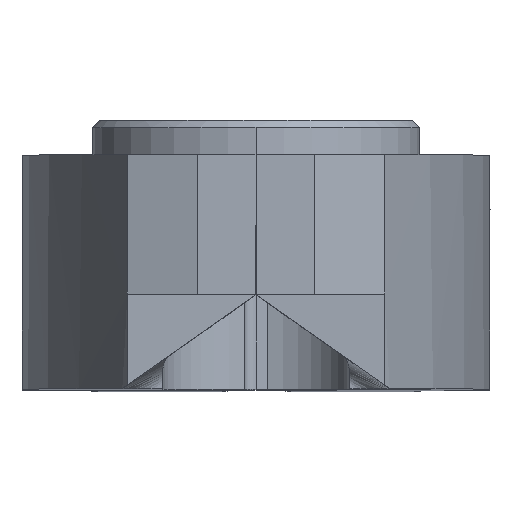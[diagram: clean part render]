
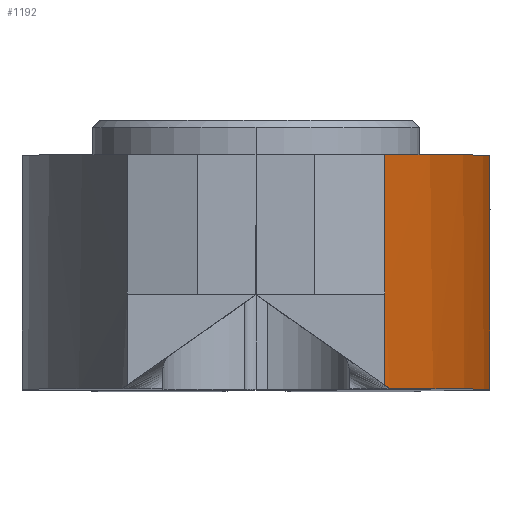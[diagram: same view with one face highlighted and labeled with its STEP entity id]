
A CAD part, top view. The second image highlights one B-rep face of the part: STEP entity #1192.
In plain terms, the highlighted cylindrical face has radius 30 mm (diameter 60 mm), a partial arc.
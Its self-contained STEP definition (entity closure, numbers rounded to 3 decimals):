
#174 = VERTEX_POINT ( 'NONE', #371 ) ;
#366 = ORIENTED_EDGE ( 'NONE', *, *, #3465, .T. ) ;
#371 = CARTESIAN_POINT ( 'NONE',  ( 10., 0., 14.393 ) ) ;
#459 = CYLINDRICAL_SURFACE ( 'NONE', #4481, 30. ) ;
#508 = VECTOR ( 'NONE', #699, 1000. ) ;
#572 = CARTESIAN_POINT ( 'NONE',  ( 5.5, 10., 30.196 ) ) ;
#575 = FACE_OUTER_BOUND ( 'NONE', #1794, .T. ) ;
#691 = EDGE_CURVE ( 'NONE', #777, #2835, #1867, .T. ) ;
#699 = DIRECTION ( 'NONE',  ( 0., -1., 0. ) ) ;
#767 = VERTEX_POINT ( 'NONE', #572 ) ;
#771 = CARTESIAN_POINT ( 'NONE',  ( 10., 5., 14.393 ) ) ;
#777 = VERTEX_POINT ( 'NONE', #2459 ) ;
#789 = LINE ( 'NONE', #771, #3673 ) ;
#943 = ORIENTED_EDGE ( 'NONE', *, *, #1534, .T. ) ;
#1050 = CIRCLE ( 'NONE', #3223, 30. ) ;
#1069 = EDGE_CURVE ( 'NONE', #767, #3255, #1050, .T. ) ;
#1095 = DIRECTION ( 'NONE',  ( 0., 1., 0. ) ) ;
#1192 = ADVANCED_FACE ( 'NONE', ( #575 ), #459, .T. ) ;
#1446 = DIRECTION ( 'NONE',  ( 0., -1., 0. ) ) ;
#1462 = LINE ( 'NONE', #2186, #2325 ) ;
#1534 = EDGE_CURVE ( 'NONE', #777, #174, #4408, .T. ) ;
#1561 = CARTESIAN_POINT ( 'NONE',  ( -20., 0., 14.393 ) ) ;
#1600 = VERTEX_POINT ( 'NONE', #4167 ) ;
#1609 = DIRECTION ( 'NONE',  ( 0., 1., 0. ) ) ;
#1633 = DIRECTION ( 'NONE',  ( 0., 0., -1. ) ) ;
#1669 = ORIENTED_EDGE ( 'NONE', *, *, #2495, .T. ) ;
#1794 = EDGE_LOOP ( 'NONE', ( #4471, #1669, #366, #4496, #943, #3248 ) ) ;
#1867 =( BOUNDED_CURVE ( )  B_SPLINE_CURVE ( 3, ( #3683, #2936, #3226, #2784 ),
 .UNSPECIFIED., .F., .T. ) 
 B_SPLINE_CURVE_WITH_KNOTS ( ( 4, 4 ),
 ( 0.541, 0.555 ),
 .UNSPECIFIED. ) 
 CURVE ( )  GEOMETRIC_REPRESENTATION_ITEM ( )  RATIONAL_B_SPLINE_CURVE ( ( 1., 1., 1., 1. ) ) 
 REPRESENTATION_ITEM ( '' )  );
#2036 = AXIS2_PLACEMENT_3D ( 'NONE', #1561, #1609, #1633 ) ;
#2078 = CARTESIAN_POINT ( 'NONE',  ( 5.5, 0.149, 30.196 ) ) ;
#2186 = CARTESIAN_POINT ( 'NONE',  ( 5.5, 5., 30.196 ) ) ;
#2325 = VECTOR ( 'NONE', #1446, 1000. ) ;
#2445 = CARTESIAN_POINT ( 'NONE',  ( -20., 10., 14.393 ) ) ;
#2459 = CARTESIAN_POINT ( 'NONE',  ( 5.713, 0., 29.848 ) ) ;
#2495 = EDGE_CURVE ( 'NONE', #767, #1600, #3272, .T. ) ;
#2538 = DIRECTION ( 'NONE',  ( 0., 0., -1. ) ) ;
#2784 = CARTESIAN_POINT ( 'NONE',  ( 5.5, 0.149, 30.196 ) ) ;
#2796 = CARTESIAN_POINT ( 'NONE',  ( 10., 10., 14.393 ) ) ;
#2835 = VERTEX_POINT ( 'NONE', #2078 ) ;
#2936 = CARTESIAN_POINT ( 'NONE',  ( 5.643, 0.049, 29.964 ) ) ;
#3223 = AXIS2_PLACEMENT_3D ( 'NONE', #4404, #1095, #2538 ) ;
#3226 = CARTESIAN_POINT ( 'NONE',  ( 5.572, 0.099, 30.081 ) ) ;
#3248 = ORIENTED_EDGE ( 'NONE', *, *, #4466, .F. ) ;
#3255 = VERTEX_POINT ( 'NONE', #2796 ) ;
#3272 = LINE ( 'NONE', #3318, #508 ) ;
#3318 = CARTESIAN_POINT ( 'NONE',  ( 5.5, 5., 30.196 ) ) ;
#3465 = EDGE_CURVE ( 'NONE', #1600, #2835, #1462, .T. ) ;
#3673 = VECTOR ( 'NONE', #4552, 1000. ) ;
#3683 = CARTESIAN_POINT ( 'NONE',  ( 5.713, 0., 29.848 ) ) ;
#4167 = CARTESIAN_POINT ( 'NONE',  ( 5.5, 4., 30.196 ) ) ;
#4198 = DIRECTION ( 'NONE',  ( 0., 0., -1. ) ) ;
#4291 = DIRECTION ( 'NONE',  ( 0., -1., 0. ) ) ;
#4404 = CARTESIAN_POINT ( 'NONE',  ( -20., 10., 14.393 ) ) ;
#4408 = CIRCLE ( 'NONE', #2036, 30. ) ;
#4466 = EDGE_CURVE ( 'NONE', #3255, #174, #789, .T. ) ;
#4471 = ORIENTED_EDGE ( 'NONE', *, *, #1069, .F. ) ;
#4481 = AXIS2_PLACEMENT_3D ( 'NONE', #2445, #4291, #4198 ) ;
#4496 = ORIENTED_EDGE ( 'NONE', *, *, #691, .F. ) ;
#4552 = DIRECTION ( 'NONE',  ( 0., -1., 0. ) ) ;
